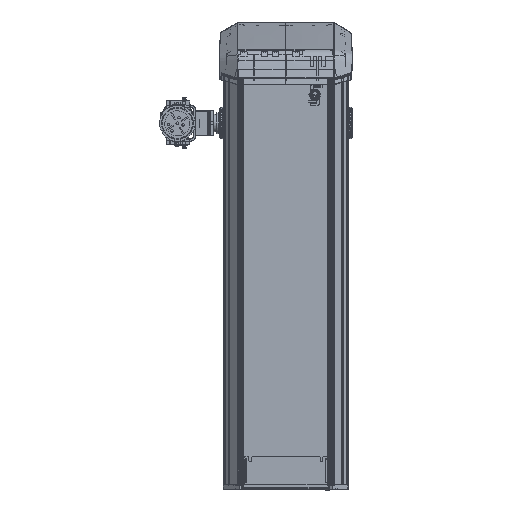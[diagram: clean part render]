
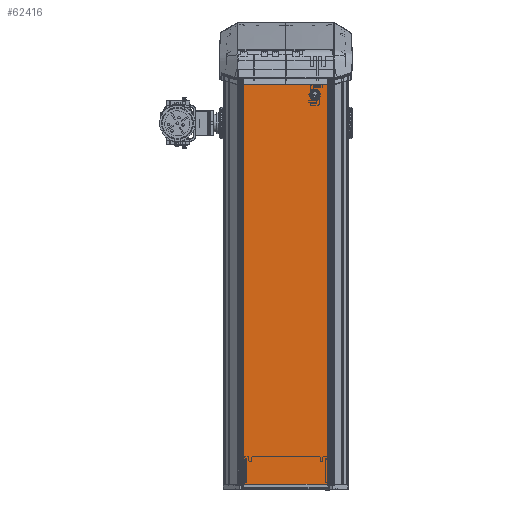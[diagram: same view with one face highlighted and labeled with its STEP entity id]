
A CAD part, front view. The second image highlights one B-rep face of the part: STEP entity #62416.
In plain terms, the highlighted planar face has unit normal (0, -1, -0.005) as drawn and (0, 1, 0) by its records, which use the part's own axes.
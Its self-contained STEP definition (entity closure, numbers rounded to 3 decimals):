
#3590=CIRCLE('',#71825,1.75);
#3591=CIRCLE('',#71826,10.);
#3592=CIRCLE('',#71827,10.);
#6511=LINE('',#106794,#12355);
#6517=LINE('',#106808,#12361);
#6521=LINE('',#106817,#12365);
#6525=LINE('',#106826,#12369);
#6533=LINE('',#106847,#12377);
#6534=LINE('',#106852,#12378);
#6535=LINE('',#106855,#12379);
#6536=LINE('',#106856,#12380);
#6537=LINE('',#106857,#12381);
#6538=LINE('',#106858,#12382);
#12355=VECTOR('',#80357,1000.);
#12361=VECTOR('',#80365,1000.);
#12365=VECTOR('',#80371,1000.);
#12369=VECTOR('',#80377,1000.);
#12377=VECTOR('',#80397,1000.);
#12378=VECTOR('',#80400,1000.);
#12379=VECTOR('',#80403,1000.);
#12380=VECTOR('',#80404,1000.);
#12381=VECTOR('',#80405,1000.);
#12382=VECTOR('',#80406,1000.);
#21371=ORIENTED_EDGE('',*,*,#37775,.T.);
#21372=ORIENTED_EDGE('',*,*,#37776,.F.);
#21373=ORIENTED_EDGE('',*,*,#37777,.F.);
#21374=ORIENTED_EDGE('',*,*,#37778,.F.);
#21375=ORIENTED_EDGE('',*,*,#37779,.F.);
#21376=ORIENTED_EDGE('',*,*,#37756,.F.);
#21377=ORIENTED_EDGE('',*,*,#37780,.T.);
#21378=ORIENTED_EDGE('',*,*,#37750,.F.);
#21379=ORIENTED_EDGE('',*,*,#37781,.T.);
#21380=ORIENTED_EDGE('',*,*,#37764,.F.);
#21381=ORIENTED_EDGE('',*,*,#37782,.T.);
#21382=ORIENTED_EDGE('',*,*,#37760,.F.);
#21383=ORIENTED_EDGE('',*,*,#37783,.T.);
#37750=EDGE_CURVE('',#46274,#46275,#6511,.T.);
#37756=EDGE_CURVE('',#46280,#46281,#6517,.T.);
#37760=EDGE_CURVE('',#46284,#46285,#6521,.T.);
#37764=EDGE_CURVE('',#46288,#46289,#6525,.T.);
#37775=EDGE_CURVE('',#46295,#46295,#3590,.T.);
#37776=EDGE_CURVE('',#46296,#46297,#6533,.T.);
#37777=EDGE_CURVE('',#46298,#46296,#3591,.T.);
#37778=EDGE_CURVE('',#46299,#46298,#6534,.T.);
#37779=EDGE_CURVE('',#46297,#46299,#3592,.T.);
#37780=EDGE_CURVE('',#46280,#46275,#6535,.F.);
#37781=EDGE_CURVE('',#46274,#46289,#6536,.F.);
#37782=EDGE_CURVE('',#46288,#46285,#6537,.F.);
#37783=EDGE_CURVE('',#46284,#46281,#6538,.F.);
#46274=VERTEX_POINT('',#106795);
#46275=VERTEX_POINT('',#106796);
#46280=VERTEX_POINT('',#106807);
#46281=VERTEX_POINT('',#106809);
#46284=VERTEX_POINT('',#106816);
#46285=VERTEX_POINT('',#106818);
#46288=VERTEX_POINT('',#106825);
#46289=VERTEX_POINT('',#106827);
#46295=VERTEX_POINT('',#106846);
#46296=VERTEX_POINT('',#106848);
#46297=VERTEX_POINT('',#106849);
#46298=VERTEX_POINT('',#106851);
#46299=VERTEX_POINT('',#106853);
#52237=EDGE_LOOP('',(#21371));
#52238=EDGE_LOOP('',(#21372,#21373,#21374,#21375));
#52239=EDGE_LOOP('',(#21376,#21377,#21378,#21379,#21380,#21381,#21382,#21383));
#56456=FACE_BOUND('',#52237,.T.);
#56457=FACE_BOUND('',#52238,.T.);
#56458=FACE_BOUND('',#52239,.T.);
#60017=PLANE('',#71824);
#62416=ADVANCED_FACE('',(#56456,#56457,#56458),#60017,.F.);
#71824=AXIS2_PLACEMENT_3D('',#106844,#80393,#80394);
#71825=AXIS2_PLACEMENT_3D('',#106845,#80395,#80396);
#71826=AXIS2_PLACEMENT_3D('',#106850,#80398,#80399);
#71827=AXIS2_PLACEMENT_3D('',#106854,#80401,#80402);
#80357=DIRECTION('',(0.,0.,-1.));
#80365=DIRECTION('',(1.,0.,0.));
#80371=DIRECTION('',(0.,0.,1.));
#80377=DIRECTION('',(-1.,0.,0.));
#80393=DIRECTION('',(0.,-1.,0.));
#80394=DIRECTION('',(0.,0.,-1.));
#80395=DIRECTION('',(0.,-1.,0.));
#80396=DIRECTION('',(0.,0.,-1.));
#80397=DIRECTION('',(0.,0.,1.));
#80398=DIRECTION('',(0.,1.,0.));
#80399=DIRECTION('',(1.,0.,0.));
#80400=DIRECTION('',(0.,0.,-1.));
#80401=DIRECTION('',(0.,1.,0.));
#80402=DIRECTION('',(1.,0.,0.));
#80403=DIRECTION('',(0.707,0.,-0.707));
#80404=DIRECTION('',(-0.707,0.,-0.707));
#80405=DIRECTION('',(-0.707,0.,0.707));
#80406=DIRECTION('',(0.707,0.,0.707));
#106794=CARTESIAN_POINT('',(-108.,0.,968.5));
#106795=CARTESIAN_POINT('',(-108.,0.,966.5));
#106796=CARTESIAN_POINT('',(-108.,0.,2.));
#106807=CARTESIAN_POINT('',(-106.,0.,0.));
#106808=CARTESIAN_POINT('',(-108.,0.,0.));
#106809=CARTESIAN_POINT('',(106.,0.,0.));
#106816=CARTESIAN_POINT('',(108.,0.,2.));
#106817=CARTESIAN_POINT('',(108.,0.,0.));
#106818=CARTESIAN_POINT('',(108.,0.,966.5));
#106825=CARTESIAN_POINT('',(106.,0.,968.5));
#106826=CARTESIAN_POINT('',(108.,0.,968.5));
#106827=CARTESIAN_POINT('',(-106.,0.,968.5));
#106844=CARTESIAN_POINT('',(-108.,0.,0.));
#106845=CARTESIAN_POINT('',(103.,0.,958.5));
#106846=CARTESIAN_POINT('',(103.,0.,956.75));
#106847=CARTESIAN_POINT('',(60.5,0.,34.741));
#106848=CARTESIAN_POINT('',(60.5,0.,34.741));
#106849=CARTESIAN_POINT('',(60.5,0.,43.459));
#106850=CARTESIAN_POINT('',(69.5,0.,39.1));
#106851=CARTESIAN_POINT('',(78.5,0.,34.741));
#106852=CARTESIAN_POINT('',(78.5,0.,34.741));
#106853=CARTESIAN_POINT('',(78.5,0.,43.459));
#106854=CARTESIAN_POINT('',(69.5,0.,39.1));
#106855=CARTESIAN_POINT('',(-106.,0.,0.));
#106856=CARTESIAN_POINT('',(-108.,0.,966.5));
#106857=CARTESIAN_POINT('',(106.,0.,968.5));
#106858=CARTESIAN_POINT('',(108.,0.,2.));
